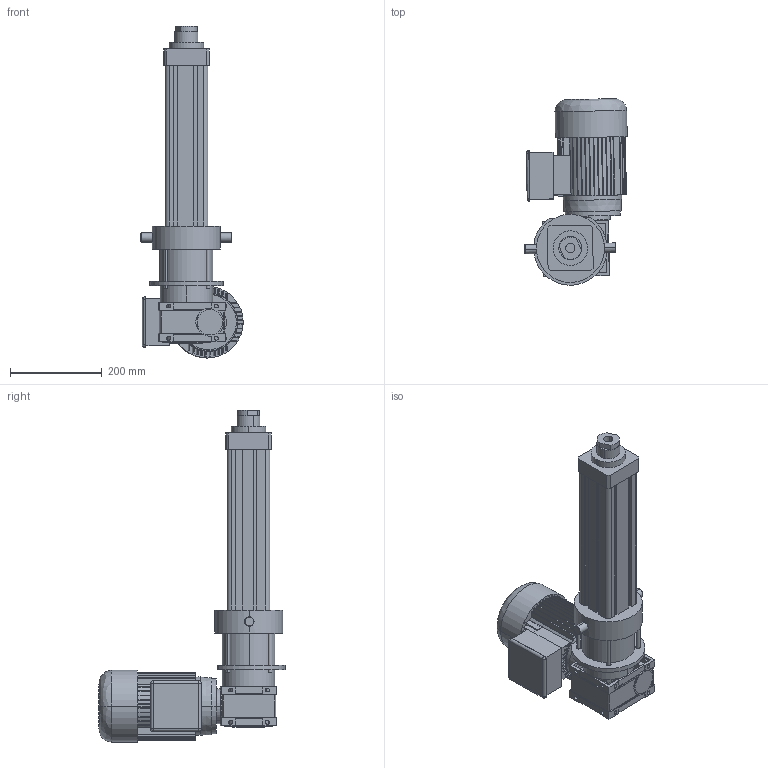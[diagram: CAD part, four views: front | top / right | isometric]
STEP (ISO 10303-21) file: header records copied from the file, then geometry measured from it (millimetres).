
FILE_DESCRIPTION (( 'STEP AP214' ), '1' );
FILE_NAME ('Ass RV80 BI C200.STEP', '2017-01-03T16:20:17', ( 'Hubert' ), ( '' ), 'SwSTEP 2.0', 'SolidWorks 2014', '' );
FILE_SCHEMA (( 'AUTOMOTIVE_DESIGN' ));
Length unit declared in the file: millimetre
Products named in the file (9): Ass RV80 BI C200; Ass CHM50_FC MOT 80 F; _AT_80_B_2_1,10_B14_F_230-400-50_DC-S.3d; _CHM_50_FC_2_7,5_80_B14_B3.3d; Tube MR 80 BI C200; PAAV 80 D; Profilé MRRV80 BI C200; Vis MRRV80 BI C200; PAAR RV 80 B160
Assembly tree (8 placements, depth 3):
  Ass RV80 BI C200
    PAAR RV 80 B160
    Vis MRRV80 BI C200
    Profilé MRRV80 BI C200
    PAAV 80 D
    Tube MR 80 BI C200
    Ass CHM50_FC MOT 80 F
      _CHM_50_FC_2_7,5_80_B14_B3.3d
      _AT_80_B_2_1,10_B14_F_230-400-50_DC-S.3d
Bounding box: 222.7 x 405.81 x 722 mm (x, y, z)
Volume: 8357051.7 mm3; surface area: 1145940.1 mm2
Topology: 7 solids, 11 shells, 833 faces, 2164 edges, 1391 vertices
Faces by surface type: plane 422, cylinder 382, cone 22, bspline 7
Entity records: 34432 total; most frequent: CARTESIAN_POINT 4908, DIRECTION 4660, ORIENTED_EDGE 4288, EDGE_CURVE 2144, AXIS2_PLACEMENT_3D 1689, VERTEX_POINT 1391, LINE 1282, VECTOR 1282
